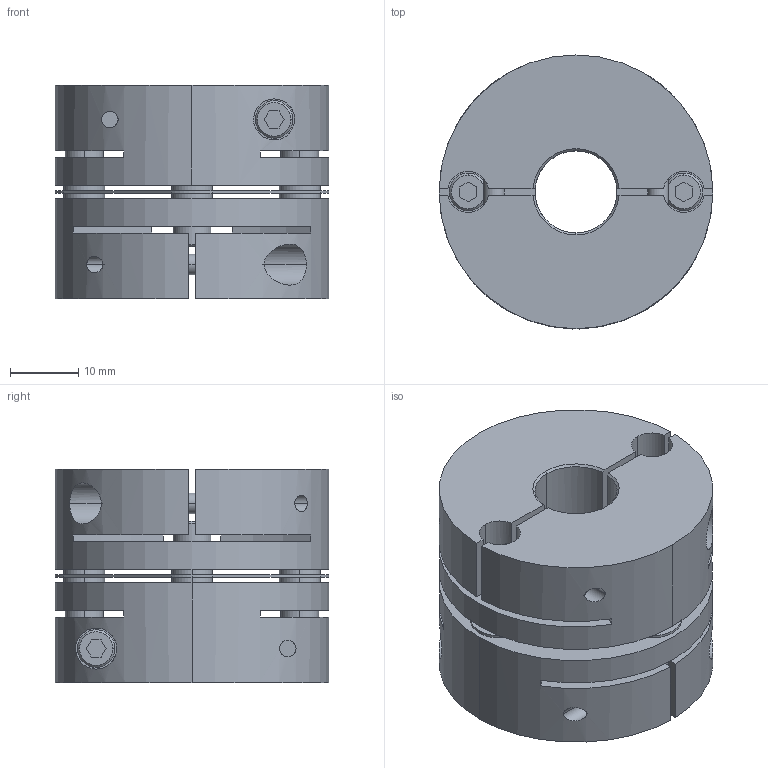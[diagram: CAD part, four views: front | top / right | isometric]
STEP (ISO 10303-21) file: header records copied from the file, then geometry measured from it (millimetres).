
FILE_DESCRIPTION((''),'2;1');
FILE_NAME('LAS-40C-12×15.stp','2011-08-11T08:58:49',(''),(''),'AutoCAD STEP 2000i','AutoCAD 2000i',', , ');
FILE_SCHEMA(('CONFIG_CONTROL_DESIGN'));
Length unit declared in the file: millimetre
Products named in the file (6): LAS-40C-10×15; 忣兜1; LA-4002-D15; LA-4002-D10-1; LA-4002-D10; LAS40-ITA
Assembly tree (5 placements, depth 2):
  LAS-40C-10×15
    忣兜1
    LA-4002-D15
    LA-4002-D10-1
    LA-4002-D10
    LAS40-ITA
Bounding box: 40 x 40 x 31.2 mm (x, y, z)
Volume: 29868 mm3; surface area: 15310.4 mm2
Topology: 1 solids, 1 shells, 236 faces, 624 edges, 408 vertices
Faces by surface type: plane 112, cylinder 96, cone 28
Entity records: 8177 total; most frequent: CARTESIAN_POINT 1970, DIRECTION 1304, ORIENTED_EDGE 1248, EDGE_CURVE 624, AXIS2_PLACEMENT_3D 478, VERTEX_POINT 408, VECTOR 348, LINE 348
